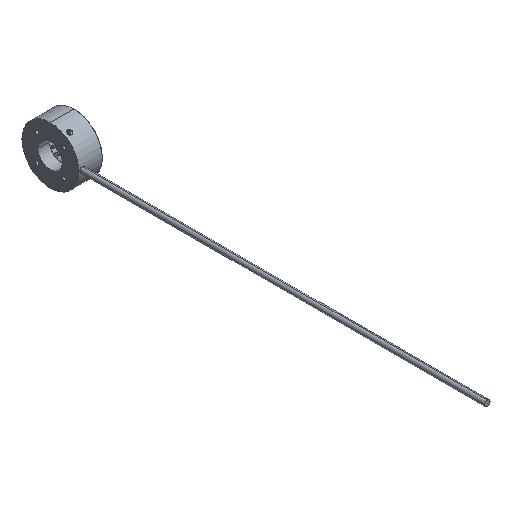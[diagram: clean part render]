
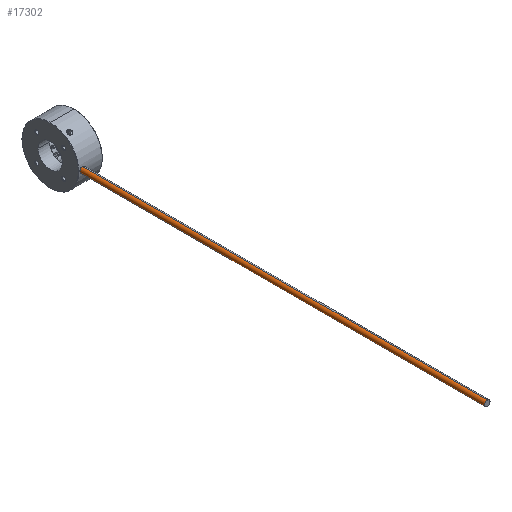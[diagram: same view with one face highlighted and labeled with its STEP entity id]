
A CAD part, isometric view. The second image highlights one B-rep face of the part: STEP entity #17302.
In plain terms, the highlighted cylindrical face has radius 2 mm (diameter 4 mm), a partial arc.
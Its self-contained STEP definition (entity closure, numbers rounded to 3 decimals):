
#440 = CARTESIAN_POINT ( 'NONE',  ( 2., -19.111, 0. ) ) ;
#443 = DIRECTION ( 'NONE',  ( 0., -1., 0. ) ) ;
#446 = CYLINDRICAL_SURFACE ( 'NONE', #7775, 2. ) ;
#447 = FACE_OUTER_BOUND ( 'NONE', #6996, .T. ) ;
#449 = DIRECTION ( 'NONE',  ( 0., 0., -1. ) ) ;
#4073 = CARTESIAN_POINT ( 'NONE',  ( 1.868, -20.905, 2. ) ) ;
#4074 = CARTESIAN_POINT ( 'NONE',  ( 2., -20.905, 2. ) ) ;
#4101 = CARTESIAN_POINT ( 'NONE',  ( 1.738, -20.906, 1.987 ) ) ;
#4102 = CARTESIAN_POINT ( 'NONE',  ( 1.482, -20.911, 1.936 ) ) ;
#4103 = CARTESIAN_POINT ( 'NONE',  ( 1.355, -20.914, 1.898 ) ) ;
#4104 = CARTESIAN_POINT ( 'NONE',  ( 1.113, -20.923, 1.797 ) ) ;
#4105 = CARTESIAN_POINT ( 'NONE',  ( 0.998, -20.928, 1.736 ) ) ;
#4106 = CARTESIAN_POINT ( 'NONE',  ( 0.781, -20.94, 1.591 ) ) ;
#4107 = CARTESIAN_POINT ( 'NONE',  ( 0.678, -20.946, 1.506 ) ) ;
#4108 = CARTESIAN_POINT ( 'NONE',  ( 0.401, -20.965, 1.23 ) ) ;
#4109 = CARTESIAN_POINT ( 'NONE',  ( 0.252, -20.977, 1.007 ) ) ;
#4110 = CARTESIAN_POINT ( 'NONE',  ( 0.053, -20.995, 0.526 ) ) ;
#4111 = CARTESIAN_POINT ( 'NONE',  ( 0., -21., 0.262 ) ) ;
#4112 = CARTESIAN_POINT ( 'NONE',  ( 0., -21., -0.129 ) ) ;
#4113 = CARTESIAN_POINT ( 'NONE',  ( 0.013, -20.999, -0.262 ) ) ;
#4114 = CARTESIAN_POINT ( 'NONE',  ( 0.064, -20.994, -0.518 ) ) ;
#4115 = CARTESIAN_POINT ( 'NONE',  ( 0.102, -20.991, -0.643 ) ) ;
#4116 = CARTESIAN_POINT ( 'NONE',  ( 0.202, -20.982, -0.885 ) ) ;
#4117 = CARTESIAN_POINT ( 'NONE',  ( 0.264, -20.976, -1.002 ) ) ;
#4118 = CARTESIAN_POINT ( 'NONE',  ( 0.409, -20.965, -1.219 ) ) ;
#4119 = CARTESIAN_POINT ( 'NONE',  ( 0.492, -20.959, -1.32 ) ) ;
#4120 = CARTESIAN_POINT ( 'NONE',  ( 0.678, -20.946, -1.507 ) ) ;
#4121 = CARTESIAN_POINT ( 'NONE',  ( 0.779, -20.94, -1.589 ) ) ;
#4122 = CARTESIAN_POINT ( 'NONE',  ( 0.995, -20.928, -1.734 ) ) ;
#4123 = CARTESIAN_POINT ( 'NONE',  ( 1.112, -20.923, -1.797 ) ) ;
#4124 = CARTESIAN_POINT ( 'NONE',  ( 1.355, -20.914, -1.898 ) ) ;
#4125 = CARTESIAN_POINT ( 'NONE',  ( 1.479, -20.911, -1.935 ) ) ;
#4126 = CARTESIAN_POINT ( 'NONE',  ( 1.735, -20.906, -1.987 ) ) ;
#4127 = CARTESIAN_POINT ( 'NONE',  ( 1.868, -20.905, -2. ) ) ;
#4128 = CARTESIAN_POINT ( 'NONE',  ( 2., -20.905, -2. ) ) ;
#4129 = CARTESIAN_POINT ( 'NONE',  ( 2., -319.9, 0. ) ) ;
#4130 = DIRECTION ( 'NONE',  ( 0., 1., 0. ) ) ;
#4131 = DIRECTION ( 'NONE',  ( 0., 0., -1. ) ) ;
#4483 = ORIENTED_EDGE ( 'NONE', *, *, #16924, .T. ) ;
#4484 = ORIENTED_EDGE ( 'NONE', *, *, #11882, .T. ) ;
#4485 = ORIENTED_EDGE ( 'NONE', *, *, #16923, .T. ) ;
#4486 = ORIENTED_EDGE ( 'NONE', *, *, #17683, .F. ) ;
#5522 = VERTEX_POINT ( 'NONE', #9002 ) ;
#5528 = VERTEX_POINT ( 'NONE', #9009 ) ;
#5532 = VERTEX_POINT ( 'NONE', #9013 ) ;
#5534 = VERTEX_POINT ( 'NONE', #9014 ) ;
#6996 = EDGE_LOOP ( 'NONE', ( #4486, #4485, #4484, #4483 ) ) ;
#7459 = CIRCLE ( 'NONE', #7460, 2. ) ;
#7460 = AXIS2_PLACEMENT_3D ( 'NONE', #4129, #4130, #4131 ) ;
#7775 = AXIS2_PLACEMENT_3D ( 'NONE', #440, #443, #449 ) ;
#8394 = VECTOR ( 'NONE', #10991, 1000. ) ;
#8798 = B_SPLINE_CURVE_WITH_KNOTS ( 'NONE', 3,
 ( #4074, #4073, #4101, #4102, #4103, #4104, #4105, #4106, #4107, #4108, #4109, #4110, #4111, #4112, #4113, #4114, #4115, #4116, #4117, #4118, #4119, #4120, #4121, #4122, #4123, #4124, #4125, #4126, #4127, #4128 ),
 .UNSPECIFIED., .F., .F.,
 ( 4, 2, 2, 2, 2, 2, 2, 2, 2, 2, 2, 2, 2, 2, 4 ),
 ( 0., 0., 0.001, 0.001, 0.002, 0.002, 0.003, 0.004, 0.004, 0.004, 0.005, 0.005, 0.005, 0.006, 0.006 ),
 .UNSPECIFIED. ) ;
#9002 = CARTESIAN_POINT ( 'NONE',  ( 2., -319.9, -2. ) ) ;
#9009 = CARTESIAN_POINT ( 'NONE',  ( 2., -20.905, 2. ) ) ;
#9013 = CARTESIAN_POINT ( 'NONE',  ( 2., -20.905, -2. ) ) ;
#9014 = CARTESIAN_POINT ( 'NONE',  ( 2., -319.9, 2. ) ) ;
#10989 = LINE ( 'NONE', #10990, #8394 ) ;
#10990 = CARTESIAN_POINT ( 'NONE',  ( 2., -19.111, 2. ) ) ;
#10991 = DIRECTION ( 'NONE',  ( 0., -1., 0. ) ) ;
#11882 = EDGE_CURVE ( 'NONE', #5532, #5522, #16593, .T. ) ;
#14623 = VECTOR ( 'NONE', #16602, 1000. ) ;
#16593 = LINE ( 'NONE', #16600, #14623 ) ;
#16600 = CARTESIAN_POINT ( 'NONE',  ( 2., -19.111, -2. ) ) ;
#16602 = DIRECTION ( 'NONE',  ( 0., -1., 0. ) ) ;
#16923 = EDGE_CURVE ( 'NONE', #5528, #5532, #8798, .T. ) ;
#16924 = EDGE_CURVE ( 'NONE', #5522, #5534, #7459, .T. ) ;
#17302 = ADVANCED_FACE ( 'NONE', ( #447 ), #446, .T. ) ;
#17683 = EDGE_CURVE ( 'NONE', #5528, #5534, #10989, .T. ) ;
